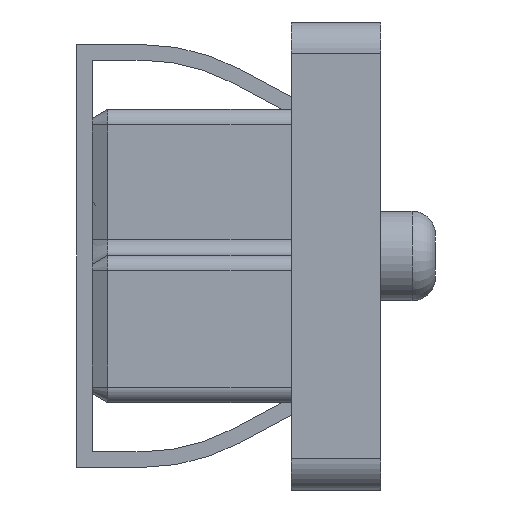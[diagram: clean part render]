
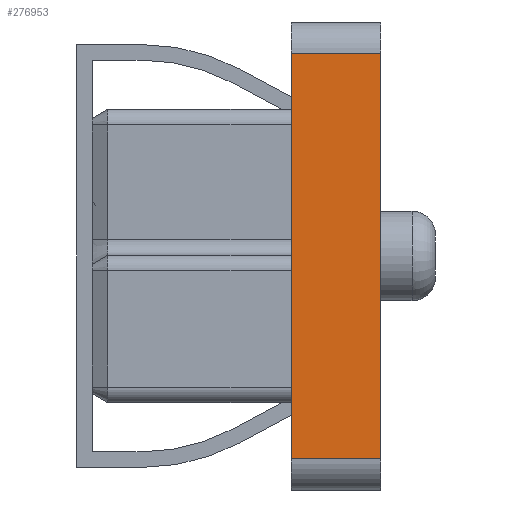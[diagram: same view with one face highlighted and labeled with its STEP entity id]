
A CAD part, left-side view. The second image highlights one B-rep face of the part: STEP entity #276953.
In plain terms, the highlighted planar face has unit normal (-1, 0, 0).
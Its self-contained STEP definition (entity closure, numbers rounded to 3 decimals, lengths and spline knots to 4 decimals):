
#10493 = CARTESIAN_POINT ( 'NONE',  ( -58.0654, 2.9152, 2.6 ) ) ;
#11943 = DIRECTION ( 'NONE',  ( 0., -1., 0. ) ) ;
#18664 = FACE_OUTER_BOUND ( 'NONE', #231677, .T. ) ;
#23486 = VERTEX_POINT ( 'NONE', #175244 ) ;
#49281 = VECTOR ( 'NONE', #141408, 1000. ) ;
#61055 = ORIENTED_EDGE ( 'NONE', *, *, #137337, .F. ) ;
#63499 = VECTOR ( 'NONE', #11943, 1000. ) ;
#67373 = VECTOR ( 'NONE', #148421, 1000. ) ;
#84727 = CARTESIAN_POINT ( 'NONE',  ( -58.0654, 6.6152, -2.6 ) ) ;
#87753 = AXIS2_PLACEMENT_3D ( 'NONE', #132154, #269220, #267784 ) ;
#99611 = EDGE_CURVE ( 'NONE', #107288, #23486, #130424, .T. ) ;
#107288 = VERTEX_POINT ( 'NONE', #221355 ) ;
#110566 = CARTESIAN_POINT ( 'NONE',  ( -58.0654, 4.0652, 2.6 ) ) ;
#116363 = LINE ( 'NONE', #249043, #49281 ) ;
#121055 = ORIENTED_EDGE ( 'NONE', *, *, #233615, .F. ) ;
#126861 = EDGE_CURVE ( 'NONE', #265701, #23486, #129176, .T. ) ;
#128398 = CARTESIAN_POINT ( 'NONE',  ( -58.0654, 2.9152, 2.6 ) ) ;
#129176 = LINE ( 'NONE', #285437, #67373 ) ;
#130424 = LINE ( 'NONE', #84727, #258974 ) ;
#132154 = CARTESIAN_POINT ( 'NONE',  ( -58.0654, 6.6152, 3. ) ) ;
#132271 = ORIENTED_EDGE ( 'NONE', *, *, #126861, .T. ) ;
#137337 = EDGE_CURVE ( 'NONE', #192873, #107288, #116363, .T. ) ;
#141408 = DIRECTION ( 'NONE',  ( 0., 0., -1. ) ) ;
#148421 = DIRECTION ( 'NONE',  ( 0., 0., -1. ) ) ;
#155429 = DIRECTION ( 'NONE',  ( 0., 1., 0. ) ) ;
#165315 = LINE ( 'NONE', #10493, #63499 ) ;
#175244 = CARTESIAN_POINT ( 'NONE',  ( -58.0654, 4.0652, -2.6 ) ) ;
#192873 = VERTEX_POINT ( 'NONE', #128398 ) ;
#221355 = CARTESIAN_POINT ( 'NONE',  ( -58.0654, 2.9152, -2.6 ) ) ;
#223533 = PLANE ( 'NONE',  #87753 ) ;
#231677 = EDGE_LOOP ( 'NONE', ( #132271, #275061, #61055, #121055 ) ) ;
#233615 = EDGE_CURVE ( 'NONE', #265701, #192873, #165315, .T. ) ;
#249043 = CARTESIAN_POINT ( 'NONE',  ( -58.0654, 2.9152, 3. ) ) ;
#258974 = VECTOR ( 'NONE', #155429, 1000. ) ;
#265701 = VERTEX_POINT ( 'NONE', #110566 ) ;
#267784 = DIRECTION ( 'NONE',  ( 0., 1., 0. ) ) ;
#269220 = DIRECTION ( 'NONE',  ( 1., 0., 0. ) ) ;
#275061 = ORIENTED_EDGE ( 'NONE', *, *, #99611, .F. ) ;
#276953 = ADVANCED_FACE ( 'NONE', ( #18664 ), #223533, .F. ) ;
#285437 = CARTESIAN_POINT ( 'NONE',  ( -58.0654, 4.0652, -3. ) ) ;
